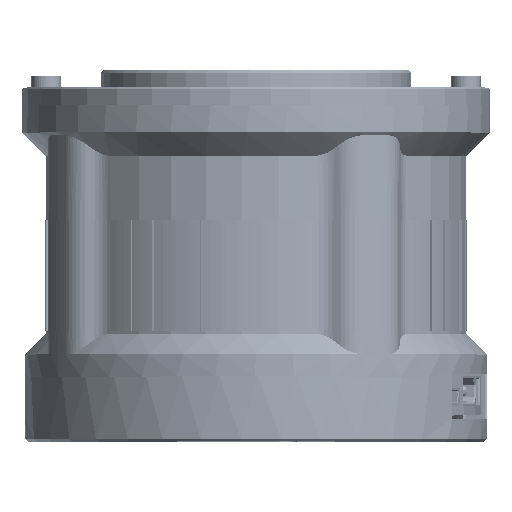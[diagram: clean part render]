
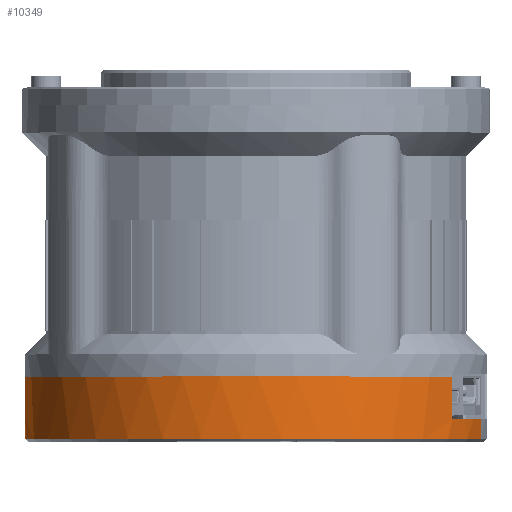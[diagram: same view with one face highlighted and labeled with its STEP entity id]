
A CAD part, top view. The second image highlights one B-rep face of the part: STEP entity #10349.
In plain terms, the highlighted cylindrical face has radius 39.5 mm (diameter 79 mm), a partial arc.
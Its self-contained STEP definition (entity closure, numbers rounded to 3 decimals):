
#2347 = EDGE_CURVE ( 'NONE', #27996, #78275, #3899, .T. ) ;
#3899 = LINE ( 'NONE', #45943, #121177 ) ;
#10349 = ADVANCED_FACE ( 'NONE', ( #95558 ), #46393, .T. ) ;
#12442 = CARTESIAN_POINT ( 'NONE',  ( 0., 3.9, 39.5 ) ) ;
#15362 = CARTESIAN_POINT ( 'NONE',  ( 0., 14.1, 0. ) ) ;
#17648 = VERTEX_POINT ( 'NONE', #75613 ) ;
#19516 = ORIENTED_EDGE ( 'NONE', *, *, #52582, .T. ) ;
#21805 = DIRECTION ( 'NONE',  ( 0., -1., 0. ) ) ;
#22159 = AXIS2_PLACEMENT_3D ( 'NONE', #70237, #101213, #91590 ) ;
#27342 = CARTESIAN_POINT ( 'NONE',  ( 0., 11.1, 0. ) ) ;
#27996 = VERTEX_POINT ( 'NONE', #116936 ) ;
#28463 = LINE ( 'NONE', #70545, #38310 ) ;
#29663 = CARTESIAN_POINT ( 'NONE',  ( 0., 14.1, -39.5 ) ) ;
#31352 = EDGE_CURVE ( 'NONE', #130088, #78275, #42150, .T. ) ;
#31585 = VERTEX_POINT ( 'NONE', #56115 ) ;
#38310 = VECTOR ( 'NONE', #112504, 1000. ) ;
#38375 = CARTESIAN_POINT ( 'NONE',  ( 0., 0.5, 0. ) ) ;
#41061 = EDGE_CURVE ( 'NONE', #51988, #31585, #46306, .T. ) ;
#41574 = VECTOR ( 'NONE', #115057, 1000. ) ;
#42150 = CIRCLE ( 'NONE', #92835, 39.5 ) ;
#45001 = EDGE_CURVE ( 'NONE', #17648, #75733, #135088, .T. ) ;
#45943 = CARTESIAN_POINT ( 'NONE',  ( 12.227, 14.1, -37.56 ) ) ;
#46306 = CIRCLE ( 'NONE', #99137, 39.5 ) ;
#46393 = CYLINDRICAL_SURFACE ( 'NONE', #113149, 39.5 ) ;
#49381 = DIRECTION ( 'NONE',  ( 0., 0., 1. ) ) ;
#49389 = DIRECTION ( 'NONE',  ( 0., 1., 0. ) ) ;
#49499 = ORIENTED_EDGE ( 'NONE', *, *, #41061, .F. ) ;
#51565 = AXIS2_PLACEMENT_3D ( 'NONE', #38375, #89436, #49381 ) ;
#51988 = VERTEX_POINT ( 'NONE', #12442 ) ;
#52582 = EDGE_CURVE ( 'NONE', #130088, #31585, #87385, .T. ) ;
#56115 = CARTESIAN_POINT ( 'NONE',  ( 12.227, 3.9, 37.56 ) ) ;
#57652 = DIRECTION ( 'NONE',  ( 0., 1., 0. ) ) ;
#57864 = EDGE_LOOP ( 'NONE', ( #49499, #65195, #62144, #105143, #66233, #113400, #123907, #19516 ) ) ;
#58395 = DIRECTION ( 'NONE',  ( 0., 0., 1. ) ) ;
#61160 = DIRECTION ( 'NONE',  ( 0., 0., 1. ) ) ;
#62144 = ORIENTED_EDGE ( 'NONE', *, *, #45001, .T. ) ;
#63908 = DIRECTION ( 'NONE',  ( 0., 0., -1. ) ) ;
#65195 = ORIENTED_EDGE ( 'NONE', *, *, #92456, .T. ) ;
#66233 = ORIENTED_EDGE ( 'NONE', *, *, #117689, .F. ) ;
#68443 = CIRCLE ( 'NONE', #22159, 39.5 ) ;
#70237 = CARTESIAN_POINT ( 'NONE',  ( 0., 3.9, 0. ) ) ;
#70545 = CARTESIAN_POINT ( 'NONE',  ( 0., 14.1, 39.5 ) ) ;
#71494 = CARTESIAN_POINT ( 'NONE',  ( 0., 3.9, 0. ) ) ;
#75576 = CARTESIAN_POINT ( 'NONE',  ( 0., 3.9, -39.5 ) ) ;
#75613 = CARTESIAN_POINT ( 'NONE',  ( 0., 0.5, 39.5 ) ) ;
#75733 = VERTEX_POINT ( 'NONE', #124721 ) ;
#77732 = CARTESIAN_POINT ( 'NONE',  ( 12.227, 14.1, 37.56 ) ) ;
#78275 = VERTEX_POINT ( 'NONE', #126101 ) ;
#87385 = LINE ( 'NONE', #77732, #96421 ) ;
#88868 = VERTEX_POINT ( 'NONE', #75576 ) ;
#89436 = DIRECTION ( 'NONE',  ( 0., 1., 0. ) ) ;
#91590 = DIRECTION ( 'NONE',  ( 0., 0., 1. ) ) ;
#92456 = EDGE_CURVE ( 'NONE', #51988, #17648, #28463, .T. ) ;
#92835 = AXIS2_PLACEMENT_3D ( 'NONE', #27342, #112757, #58395 ) ;
#94422 = LINE ( 'NONE', #29663, #41574 ) ;
#95558 = FACE_OUTER_BOUND ( 'NONE', #57864, .T. ) ;
#96421 = VECTOR ( 'NONE', #97693, 1000. ) ;
#97693 = DIRECTION ( 'NONE',  ( 0., -1., 0. ) ) ;
#99137 = AXIS2_PLACEMENT_3D ( 'NONE', #71494, #49389, #61160 ) ;
#101213 = DIRECTION ( 'NONE',  ( 0., 1., 0. ) ) ;
#105143 = ORIENTED_EDGE ( 'NONE', *, *, #115002, .F. ) ;
#112504 = DIRECTION ( 'NONE',  ( 0., -1., 0. ) ) ;
#112757 = DIRECTION ( 'NONE',  ( 0., 1., 0. ) ) ;
#113149 = AXIS2_PLACEMENT_3D ( 'NONE', #15362, #21805, #63908 ) ;
#113400 = ORIENTED_EDGE ( 'NONE', *, *, #2347, .T. ) ;
#115002 = EDGE_CURVE ( 'NONE', #88868, #75733, #94422, .T. ) ;
#115057 = DIRECTION ( 'NONE',  ( 0., -1., 0. ) ) ;
#116936 = CARTESIAN_POINT ( 'NONE',  ( 12.227, 3.9, -37.56 ) ) ;
#117689 = EDGE_CURVE ( 'NONE', #27996, #88868, #68443, .T. ) ;
#121177 = VECTOR ( 'NONE', #57652, 1000. ) ;
#123907 = ORIENTED_EDGE ( 'NONE', *, *, #31352, .F. ) ;
#124721 = CARTESIAN_POINT ( 'NONE',  ( 0., 0.5, -39.5 ) ) ;
#126101 = CARTESIAN_POINT ( 'NONE',  ( 12.227, 11.1, -37.56 ) ) ;
#126341 = CARTESIAN_POINT ( 'NONE',  ( 12.227, 11.1, 37.56 ) ) ;
#130088 = VERTEX_POINT ( 'NONE', #126341 ) ;
#135088 = CIRCLE ( 'NONE', #51565, 39.5 ) ;
